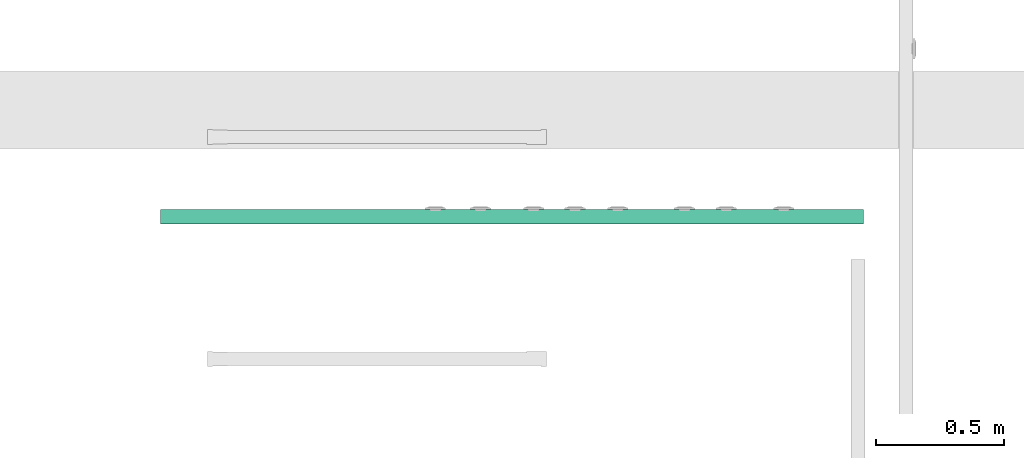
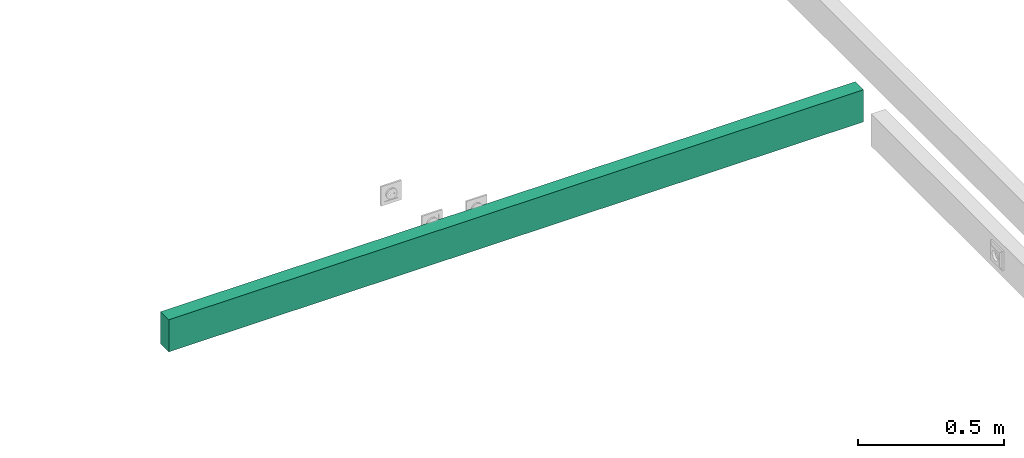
# One storey, part 16 of 166: 1 flow segment.
"""IFC2X3 building model written with IfcOpenShell, lengths in metres."""

from ifc_helpers import new_model, entity, si_unit, converted_unit, derived_unit, direction, frame, origin, origin_2d_with_axis, place, context, subcontext, project, spatial, rectangle, extrude, type_object, element, save


model = new_model("IFC2X3")

# Units and contexts
model_context = context("Model", 3, precision=1e-05, world=origin(), true_north=direction((6.12303176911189e-17, 1.0)))
body_context = subcontext(model_context, "Body", "Model", "MODEL_VIEW")
ifc_project = project(units=[si_unit("LENGTHUNIT", "METRE"), si_unit("AREAUNIT", "SQUARE_METRE"), si_unit("VOLUMEUNIT", "CUBIC_METRE"), converted_unit("PLANEANGLEUNIT", "DEGREE", entity("IfcRatioMeasure", 0.0174532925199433), si_unit("PLANEANGLEUNIT", "RADIAN"), dimensions=[0, 0, 0, 0, 0, 0, 0]), si_unit("MASSUNIT", "GRAM", prefix="KILO"), derived_unit("MASSDENSITYUNIT", [(si_unit("MASSUNIT", "GRAM", prefix="KILO"), 1), (si_unit("LENGTHUNIT", "METRE"), -3)]), si_unit("TIMEUNIT", "SECOND"), si_unit("FREQUENCYUNIT", "HERTZ"), si_unit("THERMODYNAMICTEMPERATUREUNIT", "DEGREE_CELSIUS"), derived_unit("THERMALTRANSMITTANCEUNIT", [(si_unit("MASSUNIT", "GRAM", prefix="KILO"), 1), (si_unit("THERMODYNAMICTEMPERATUREUNIT", "KELVIN"), -1), (si_unit("TIMEUNIT", "SECOND"), -3)]), derived_unit("VOLUMETRICFLOWRATEUNIT", [(si_unit("LENGTHUNIT", "METRE"), 3), (si_unit("TIMEUNIT", "SECOND"), -1)]), si_unit("ELECTRICCURRENTUNIT", "AMPERE"), si_unit("ELECTRICVOLTAGEUNIT", "VOLT"), si_unit("POWERUNIT", "WATT"), si_unit("FORCEUNIT", "NEWTON"), si_unit("ILLUMINANCEUNIT", "LUX"), si_unit("LUMINOUSFLUXUNIT", "LUMEN"), si_unit("LUMINOUSINTENSITYUNIT", "CANDELA"), derived_unit("USERDEFINED", [(si_unit("MASSUNIT", "GRAM", prefix="KILO"), -1), (si_unit("LENGTHUNIT", "METRE"), -2), (si_unit("TIMEUNIT", "SECOND"), 3), (si_unit("LUMINOUSFLUXUNIT", "LUMEN"), 1)]), derived_unit("LINEARVELOCITYUNIT", [(si_unit("LENGTHUNIT", "METRE"), 1), (si_unit("TIMEUNIT", "SECOND"), -1)]), si_unit("PRESSUREUNIT", "PASCAL"), derived_unit("USERDEFINED", [(si_unit("LENGTHUNIT", "METRE"), -2), (si_unit("MASSUNIT", "GRAM", prefix="KILO"), 1), (si_unit("TIMEUNIT", "SECOND"), -2)])], contexts=[model_context])

# Site, building, storey
site_placement = place(None, origin())
site = spatial("IfcSite", under=ifc_project, at=site_placement, Name="Default", CompositionType="ELEMENT")
building_placement = place(site_placement, origin())
building = spatial("IfcBuilding", under=site, at=building_placement, CompositionType="ELEMENT")
storey_placement = place(building_placement, frame((0.0, 0.0, 4.27)))
storey = spatial("IfcBuildingStorey", under=building, at=storey_placement, Name="01", CompositionType="ELEMENT", Elevation=4.27)

# Flow segment
cable_carrier_segment_type = type_object("IfcCableCarrierSegmentType", Name="Cable Tray with Fittings:Goulottes de câbles indéfini_Goulottes de câbles", PredefinedType="NOTDEFINED")
flow_segment_placement = place(storey_placement, origin())
element("IfcFlowSegment", 1, at=flow_segment_placement, inside=storey, type_object=cable_carrier_segment_type, Name="Cable Tray with Fittings:Goulottes de câbles indéfini_Goulottes de câbles", ObjectType="Cable Tray with Fittings:Goulottes de câbles indéfini_Goulottes de câbles", context=body_context, shape_type="SweptSolid", body=[
    extrude(rectangle(XDim=2.739, YDim=0.0559999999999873, at=origin_2d_with_axis()), frame((64.0465722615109, -189.116471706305, 0.366)), (0.0, 0.0, 1.0), 0.134),
])

save(model, "model.ifc")
